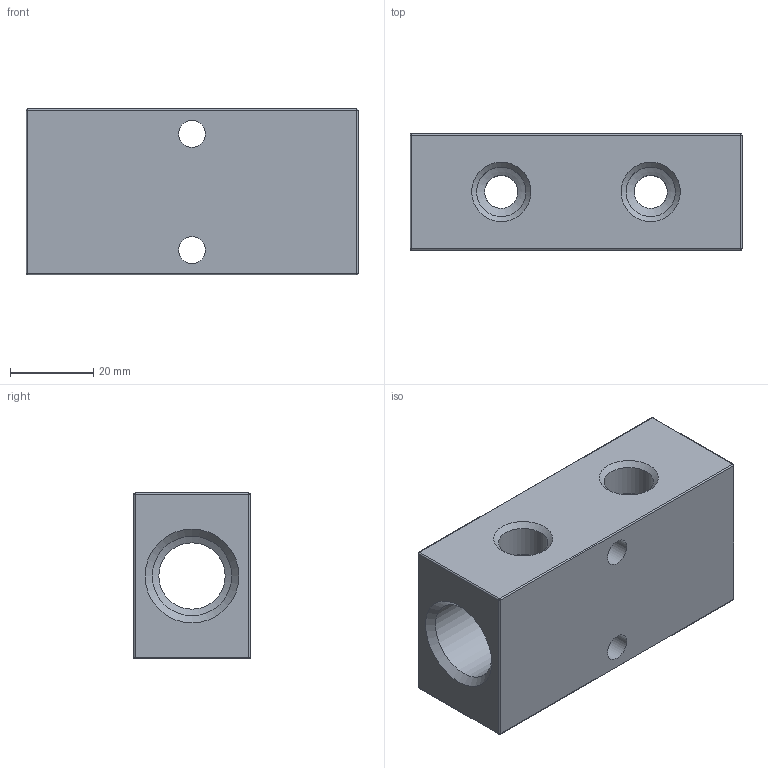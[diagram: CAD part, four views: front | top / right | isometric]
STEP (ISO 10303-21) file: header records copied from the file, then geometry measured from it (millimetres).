
FILE_DESCRIPTION(/* description */ (''),/* implementation_level */ '2;1');
FILE_NAME(/* name */ 'S:\_Tecnico\ArchivioUT\_Disegni3D ingombri\DISEGNI 3D per ingombri\RL\RL52121422.stp',/* time_stamp */ '2020-02-20T11:26:40+01:00',/* author */ ('UfficioTecnico'),/* organization */ (''),/* preprocessor_version */ 'ST-DEVELOPER v18',/* originating_system */ 'Autodesk Inventor 2020',/* authorisation */ '');
FILE_SCHEMA (('AUTOMOTIVE_DESIGN { 1 0 10303 214 3 1 1 }'));
Length unit declared in the file: millimetre
Products named in the file (1): RL51121402
Bounding box: 80 x 28 x 40 mm (x, y, z)
Volume: 63874.7 mm3; surface area: 18908.2 mm2
Topology: 1 solids, 1 shells, 51 faces, 121 edges, 72 vertices
Faces by surface type: cylinder 25, cone 12, sphere 8, plane 6
Full cylindrical faces by diameter (mm): 6.5 x2, 8 x4, 11.89 x4, 16 x1, 19.172 x2
Entity records: 1660 total; most frequent: CARTESIAN_POINT 381, DIRECTION 281, ORIENTED_EDGE 242, EDGE_CURVE 121, AXIS2_PLACEMENT_3D 116, VERTEX_POINT 72, EDGE_LOOP 65, CIRCLE 64
